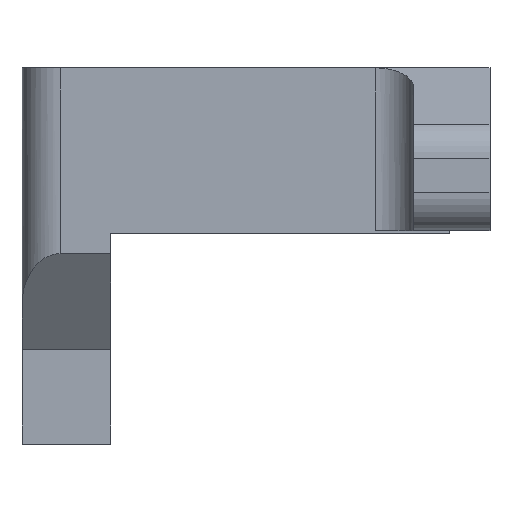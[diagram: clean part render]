
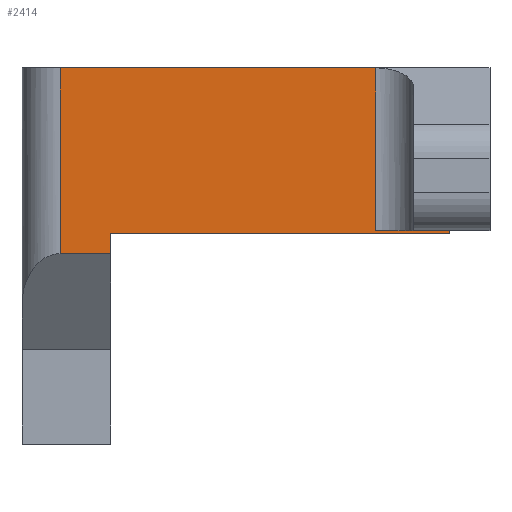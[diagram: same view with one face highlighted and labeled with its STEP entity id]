
A CAD part, left-side view. The second image highlights one B-rep face of the part: STEP entity #2414.
In plain terms, the highlighted planar face has unit normal (-1, 0, 0).
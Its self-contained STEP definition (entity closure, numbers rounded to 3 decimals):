
#144 = CARTESIAN_POINT ( 'NONE',  ( 54.592, 53.723, 29.6 ) ) ;
#247 = DIRECTION ( 'NONE',  ( 0., 0., -1. ) ) ;
#254 = CARTESIAN_POINT ( 'NONE',  ( 54.592, 23.1, 16.8 ) ) ;
#265 = EDGE_CURVE ( 'NONE', #1002, #669, #376, .T. ) ;
#284 = DIRECTION ( 'NONE',  ( 0., 1., 0. ) ) ;
#312 = VERTEX_POINT ( 'NONE', #663 ) ;
#315 = AXIS2_PLACEMENT_3D ( 'NONE', #2674, #1376, #1140 ) ;
#320 = CARTESIAN_POINT ( 'NONE',  ( 54.592, 28.9, 72.74 ) ) ;
#337 = VERTEX_POINT ( 'NONE', #2984 ) ;
#340 = VERTEX_POINT ( 'NONE', #631 ) ;
#376 = LINE ( 'NONE', #2934, #1682 ) ;
#470 = FACE_OUTER_BOUND ( 'NONE', #2797, .T. ) ;
#476 = EDGE_CURVE ( 'NONE', #3043, #337, #1390, .T. ) ;
#482 = VECTOR ( 'NONE', #247, 1000. ) ;
#498 = ORIENTED_EDGE ( 'NONE', *, *, #1589, .F. ) ;
#515 = EDGE_CURVE ( 'NONE', #2502, #3043, #3027, .T. ) ;
#631 = CARTESIAN_POINT ( 'NONE',  ( 54.592, 28.9, 29.6 ) ) ;
#639 = VECTOR ( 'NONE', #3088, 1000. ) ;
#663 = CARTESIAN_POINT ( 'NONE',  ( 54.592, 28.9, 16.8 ) ) ;
#669 = VERTEX_POINT ( 'NONE', #254 ) ;
#847 = VECTOR ( 'NONE', #2403, 1000. ) ;
#886 = LINE ( 'NONE', #320, #3246 ) ;
#1002 = VERTEX_POINT ( 'NONE', #2410 ) ;
#1049 = ORIENTED_EDGE ( 'NONE', *, *, #476, .T. ) ;
#1083 = LINE ( 'NONE', #1621, #847 ) ;
#1140 = DIRECTION ( 'NONE',  ( 0., 0., -1. ) ) ;
#1178 = LINE ( 'NONE', #2108, #2267 ) ;
#1189 = CARTESIAN_POINT ( 'NONE',  ( 54.592, 53.723, 14.977 ) ) ;
#1251 = DIRECTION ( 'NONE',  ( 0., -1., 0. ) ) ;
#1376 = DIRECTION ( 'NONE',  ( 1., 0., 0. ) ) ;
#1390 = LINE ( 'NONE', #2320, #2191 ) ;
#1496 = ORIENTED_EDGE ( 'NONE', *, *, #2353, .T. ) ;
#1507 = DIRECTION ( 'NONE',  ( 0., 0., -1. ) ) ;
#1589 = EDGE_CURVE ( 'NONE', #3072, #337, #1982, .T. ) ;
#1621 = CARTESIAN_POINT ( 'NONE',  ( 54.592, 56.723, 16.6 ) ) ;
#1682 = VECTOR ( 'NONE', #2140, 1000. ) ;
#1709 = LINE ( 'NONE', #2596, #639 ) ;
#1757 = ORIENTED_EDGE ( 'NONE', *, *, #2800, .T. ) ;
#1905 = EDGE_CURVE ( 'NONE', #3072, #1002, #1083, .T. ) ;
#1946 = DIRECTION ( 'NONE',  ( 0., 0., 1. ) ) ;
#1982 = LINE ( 'NONE', #2107, #482 ) ;
#2096 = VECTOR ( 'NONE', #1507, 1000. ) ;
#2107 = CARTESIAN_POINT ( 'NONE',  ( 54.592, 49.723, 72.74 ) ) ;
#2108 = CARTESIAN_POINT ( 'NONE',  ( 54.592, 56.723, 16.8 ) ) ;
#2140 = DIRECTION ( 'NONE',  ( 0., 0., 1. ) ) ;
#2191 = VECTOR ( 'NONE', #1251, 1000. ) ;
#2263 = CARTESIAN_POINT ( 'NONE',  ( 54.592, 49.723, 16.6 ) ) ;
#2267 = VECTOR ( 'NONE', #284, 1000. ) ;
#2320 = CARTESIAN_POINT ( 'NONE',  ( 54.592, 56.723, 14.977 ) ) ;
#2353 = EDGE_CURVE ( 'NONE', #312, #340, #886, .T. ) ;
#2403 = DIRECTION ( 'NONE',  ( 0., -1., 0. ) ) ;
#2410 = CARTESIAN_POINT ( 'NONE',  ( 54.592, 23.1, 16.6 ) ) ;
#2414 = ADVANCED_FACE ( 'NONE', ( #470 ), #2936, .F. ) ;
#2502 = VERTEX_POINT ( 'NONE', #144 ) ;
#2596 = CARTESIAN_POINT ( 'NONE',  ( 54.592, 56.723, 29.6 ) ) ;
#2674 = CARTESIAN_POINT ( 'NONE',  ( 54.592, 56.723, 72.74 ) ) ;
#2723 = ORIENTED_EDGE ( 'NONE', *, *, #515, .T. ) ;
#2797 = EDGE_LOOP ( 'NONE', ( #2723, #1049, #498, #3193, #2994, #1757, #1496, #3156 ) ) ;
#2800 = EDGE_CURVE ( 'NONE', #669, #312, #1178, .T. ) ;
#2934 = CARTESIAN_POINT ( 'NONE',  ( 54.592, 23.1, 29.6 ) ) ;
#2936 = PLANE ( 'NONE',  #315 ) ;
#2984 = CARTESIAN_POINT ( 'NONE',  ( 54.592, 49.723, 14.977 ) ) ;
#2994 = ORIENTED_EDGE ( 'NONE', *, *, #265, .T. ) ;
#3027 = LINE ( 'NONE', #3350, #2096 ) ;
#3043 = VERTEX_POINT ( 'NONE', #1189 ) ;
#3072 = VERTEX_POINT ( 'NONE', #2263 ) ;
#3088 = DIRECTION ( 'NONE',  ( 0., -1., 0. ) ) ;
#3156 = ORIENTED_EDGE ( 'NONE', *, *, #3174, .F. ) ;
#3174 = EDGE_CURVE ( 'NONE', #2502, #340, #1709, .T. ) ;
#3193 = ORIENTED_EDGE ( 'NONE', *, *, #1905, .T. ) ;
#3246 = VECTOR ( 'NONE', #1946, 1000. ) ;
#3350 = CARTESIAN_POINT ( 'NONE',  ( 54.592, 53.723, 72.74 ) ) ;
